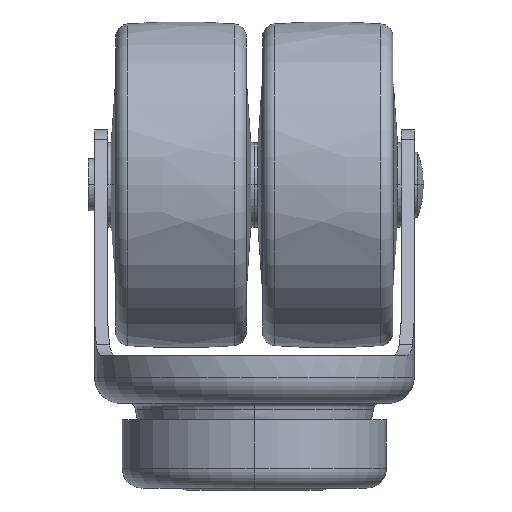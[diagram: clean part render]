
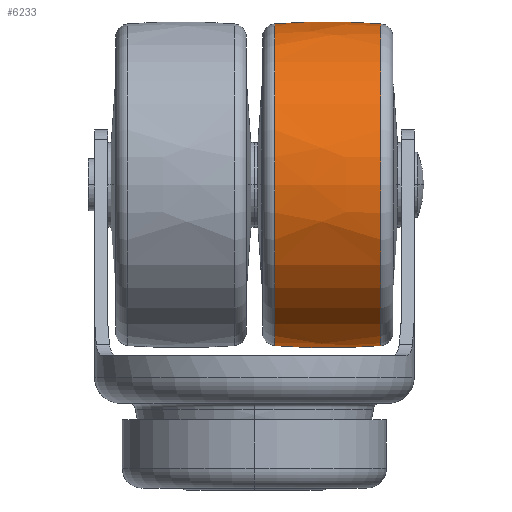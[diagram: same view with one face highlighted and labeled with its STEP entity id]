
A CAD part, left-side view. The second image highlights one B-rep face of the part: STEP entity #6233.
In plain terms, the highlighted free-form (B-spline) face has degree [3, 3] with [7, 4] control points.
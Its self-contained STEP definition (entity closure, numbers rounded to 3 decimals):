
#6072=CARTESIAN_POINT('',(8.163,0.,0.));
#6073=DIRECTION('',(-1.,0.,0.));
#6074=DIRECTION('',(0.,0.,1.));
#6075=AXIS2_PLACEMENT_3D('',#6072,#6073,#6074);
#6077=CARTESIAN_POINT('',(-8.163,0.,0.));
#6078=DIRECTION('',(-1.,0.,0.));
#6079=DIRECTION('',(0.,0.,1.));
#6080=AXIS2_PLACEMENT_3D('',#6077,#6078,#6079);
#6097=CARTESIAN_POINT('',(0.,0.,75.25));
#6098=DIRECTION('',(0.,1.,0.));
#6099=DIRECTION('',(0.081,0.,-0.997));
#6100=AXIS2_PLACEMENT_3D('',#6097,#6098,#6099);
#6107=CARTESIAN_POINT('',(0.,0.,-75.25));
#6108=DIRECTION('',(0.,-1.,0.));
#6109=DIRECTION('',(0.081,0.,0.997));
#6110=AXIS2_PLACEMENT_3D('',#6107,#6108,#6109);
#6178=CARTESIAN_POINT('',(8.163,0.,-24.667));
#6179=CARTESIAN_POINT('',(8.163,0.,24.667));
#6180=VERTEX_POINT('',#6178);
#6181=VERTEX_POINT('',#6179);
#6190=CARTESIAN_POINT('',(-8.163,0.,-24.667));
#6191=CARTESIAN_POINT('',(-8.163,0.,24.667));
#6192=VERTEX_POINT('',#6190);
#6193=VERTEX_POINT('',#6191);
#6194=CARTESIAN_POINT('',(-8.489,-1.547,
-24.591));
#6195=CARTESIAN_POINT('',(-2.836,-1.577,
-25.071));
#6196=CARTESIAN_POINT('',(2.836,-1.577,
-25.071));
#6197=CARTESIAN_POINT('',(8.489,-1.547,
-24.591));
#6198=CARTESIAN_POINT('',(-8.489,13.586,
-25.543));
#6199=CARTESIAN_POINT('',(-2.836,13.851,
-26.041));
#6200=CARTESIAN_POINT('',(2.836,13.851,-26.041));
#6201=CARTESIAN_POINT('',(8.489,13.586,-25.543));
#6202=CARTESIAN_POINT('',(-8.489,24.64,
-15.163));
#6203=CARTESIAN_POINT('',(-2.836,25.12,
-15.459));
#6204=CARTESIAN_POINT('',(2.836,25.12,-15.459));
#6205=CARTESIAN_POINT('',(8.489,24.64,-15.163));
#6206=CARTESIAN_POINT('',(-8.489,24.64,0.));
#6207=CARTESIAN_POINT('',(-2.836,25.12,0.));
#6208=CARTESIAN_POINT('',(2.836,25.12,0.));
#6209=CARTESIAN_POINT('',(8.489,24.64,0.));
#6210=CARTESIAN_POINT('',(-8.489,24.64,15.163));
#6211=CARTESIAN_POINT('',(-2.836,25.12,15.459));
#6212=CARTESIAN_POINT('',(2.836,25.12,15.459));
#6213=CARTESIAN_POINT('',(8.489,24.64,15.163));
#6214=CARTESIAN_POINT('',(-8.489,13.586,25.543));
#6215=CARTESIAN_POINT('',(-2.836,13.851,26.041));
#6216=CARTESIAN_POINT('',(2.836,13.851,26.041));
#6217=CARTESIAN_POINT('',(8.489,13.586,25.543));
#6218=CARTESIAN_POINT('',(-8.489,-1.547,
24.591));
#6219=CARTESIAN_POINT('',(-2.836,-1.577,
25.071));
#6220=CARTESIAN_POINT('',(2.836,-1.577,25.071));
#6221=CARTESIAN_POINT('',(8.489,-1.547,24.591));
#6222=(BOUNDED_SURFACE()B_SPLINE_SURFACE(3,3,((#6194,#6195,#6196,#6197),(#6198,
#6199,#6200,#6201),(#6202,#6203,#6204,#6205),(#6206,#6207,#6208,#6209),(#6210,
#6211,#6212,#6213),(#6214,#6215,#6216,#6217),(#6218,#6219,#6220,#6221)),
.UNSPECIFIED.,.F.,.F.,.F.)B_SPLINE_SURFACE_WITH_KNOTS((4,3,4),(4,4),(0.,1.,
2.),(0.,1.),.UNSPECIFIED.)GEOMETRIC_REPRESENTATION_ITEM()RATIONAL_B_SPLINE_SURFACE(((1.189,1.187,1.187,1.189),(
0.939,0.937,0.937,0.939),(
0.939,0.937,0.937,0.939),(
1.189,1.187,1.187,1.189),(
0.939,0.937,0.937,0.939),(
0.939,0.937,0.937,0.939),(
1.189,1.187,1.187,1.189)))REPRESENTATION_ITEM('')SURFACE());
#6224=ORIENTED_EDGE('',*,*,#6223,.F.);
#6226=ORIENTED_EDGE('',*,*,#6225,.T.);
#6228=ORIENTED_EDGE('',*,*,#6227,.T.);
#6230=ORIENTED_EDGE('',*,*,#6229,.F.);
#6231=EDGE_LOOP('',(#6224,#6226,#6228,#6230));
#6232=FACE_OUTER_BOUND('',#6231,.F.);
#6076=CIRCLE('',#6075,24.667);
#6081=CIRCLE('',#6080,24.667);
#6101=CIRCLE('',#6100,100.25);
#6111=CIRCLE('',#6110,100.25);
#6223=EDGE_CURVE('',#6181,#6180,#6076,.T.);
#6225=EDGE_CURVE('',#6181,#6193,#6111,.T.);
#6227=EDGE_CURVE('',#6193,#6192,#6081,.T.);
#6229=EDGE_CURVE('',#6180,#6192,#6101,.T.);
#6233=ADVANCED_FACE('',(#6232),#6222,.T.);
